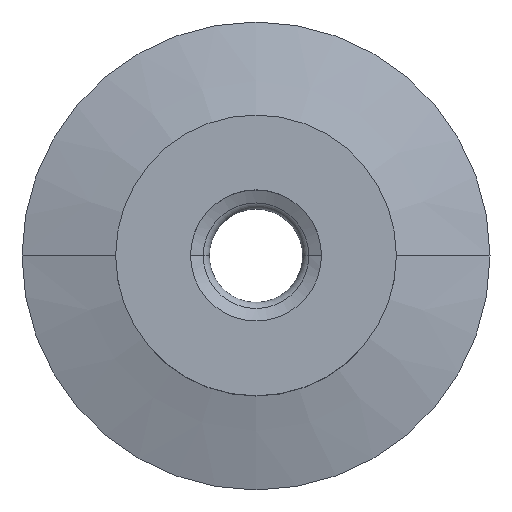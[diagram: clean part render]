
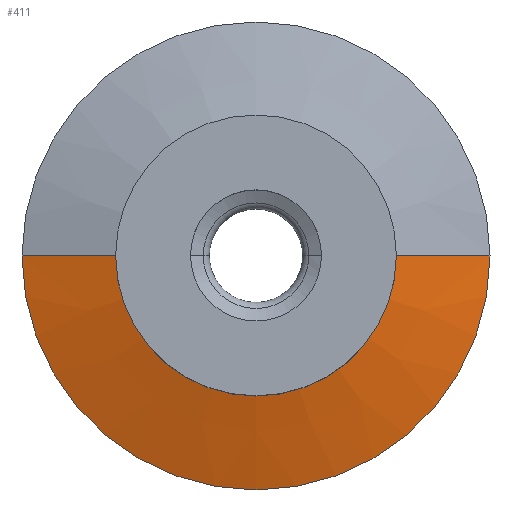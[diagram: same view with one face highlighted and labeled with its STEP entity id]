
A CAD part, top view. The second image highlights one B-rep face of the part: STEP entity #411.
In plain terms, the highlighted conical face has half-angle 73.998 degrees and reference radius 12.5 mm.
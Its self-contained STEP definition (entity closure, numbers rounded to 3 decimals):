
#46 = ORIENTED_EDGE ( 'NONE', *, *, #100, .F. ) ;
#70 = CARTESIAN_POINT ( 'NONE',  ( -3.065, 0., -14.794 ) ) ;
#80 = ORIENTED_EDGE ( 'NONE', *, *, #193, .F. ) ;
#100 = EDGE_CURVE ( 'NONE', #142, #563, #604, .T. ) ;
#142 = VERTEX_POINT ( 'NONE', #794 ) ;
#158 = EDGE_CURVE ( 'NONE', #706, #594, #848, .T. ) ;
#173 = ORIENTED_EDGE ( 'NONE', *, *, #158, .T. ) ;
#193 = EDGE_CURVE ( 'NONE', #706, #142, #515, .T. ) ;
#194 = CONICAL_SURFACE ( 'NONE', #720, 12.5, 1.292 ) ;
#240 = DIRECTION ( 'NONE',  ( 0., 0., -1. ) ) ;
#267 = DIRECTION ( 'NONE',  ( 0., 0., 1. ) ) ;
#323 = DIRECTION ( 'NONE',  ( 0.961, 0., -0.276 ) ) ;
#355 = CARTESIAN_POINT ( 'NONE',  ( 0., 0., -14.794 ) ) ;
#371 = CARTESIAN_POINT ( 'NONE',  ( -12.5, 0., -17.5 ) ) ;
#411 = ADVANCED_FACE ( 'NONE', ( #588 ), #194, .T. ) ;
#414 = VECTOR ( 'NONE', #812, 1000. ) ;
#424 = CARTESIAN_POINT ( 'NONE',  ( 0., 0., -17.5 ) ) ;
#494 = AXIS2_PLACEMENT_3D ( 'NONE', #846, #267, #571 ) ;
#496 = CARTESIAN_POINT ( 'NONE',  ( 12.5, 0., -17.5 ) ) ;
#515 = CIRCLE ( 'NONE', #941, 3.065 ) ;
#522 = ORIENTED_EDGE ( 'NONE', *, *, #782, .T. ) ;
#563 = VERTEX_POINT ( 'NONE', #496 ) ;
#571 = DIRECTION ( 'NONE',  ( 1., 0., 0. ) ) ;
#579 = DIRECTION ( 'NONE',  ( 1., 0., 0. ) ) ;
#588 = FACE_OUTER_BOUND ( 'NONE', #828, .T. ) ;
#594 = VERTEX_POINT ( 'NONE', #952 ) ;
#604 = LINE ( 'NONE', #791, #719 ) ;
#657 = DIRECTION ( 'NONE',  ( 0., 0., 1. ) ) ;
#706 = VERTEX_POINT ( 'NONE', #70 ) ;
#719 = VECTOR ( 'NONE', #323, 1000. ) ;
#720 = AXIS2_PLACEMENT_3D ( 'NONE', #424, #240, #855 ) ;
#765 = CIRCLE ( 'NONE', #494, 12.5 ) ;
#782 = EDGE_CURVE ( 'NONE', #594, #563, #765, .T. ) ;
#791 = CARTESIAN_POINT ( 'NONE',  ( 12.5, 0., -17.5 ) ) ;
#794 = CARTESIAN_POINT ( 'NONE',  ( 3.065, 0., -14.794 ) ) ;
#812 = DIRECTION ( 'NONE',  ( -0.961, 0., -0.276 ) ) ;
#828 = EDGE_LOOP ( 'NONE', ( #46, #80, #173, #522 ) ) ;
#846 = CARTESIAN_POINT ( 'NONE',  ( 0., 0., -17.5 ) ) ;
#848 = LINE ( 'NONE', #371, #414 ) ;
#855 = DIRECTION ( 'NONE',  ( -1., 0., 0. ) ) ;
#941 = AXIS2_PLACEMENT_3D ( 'NONE', #355, #657, #579 ) ;
#952 = CARTESIAN_POINT ( 'NONE',  ( -12.5, 0., -17.5 ) ) ;
